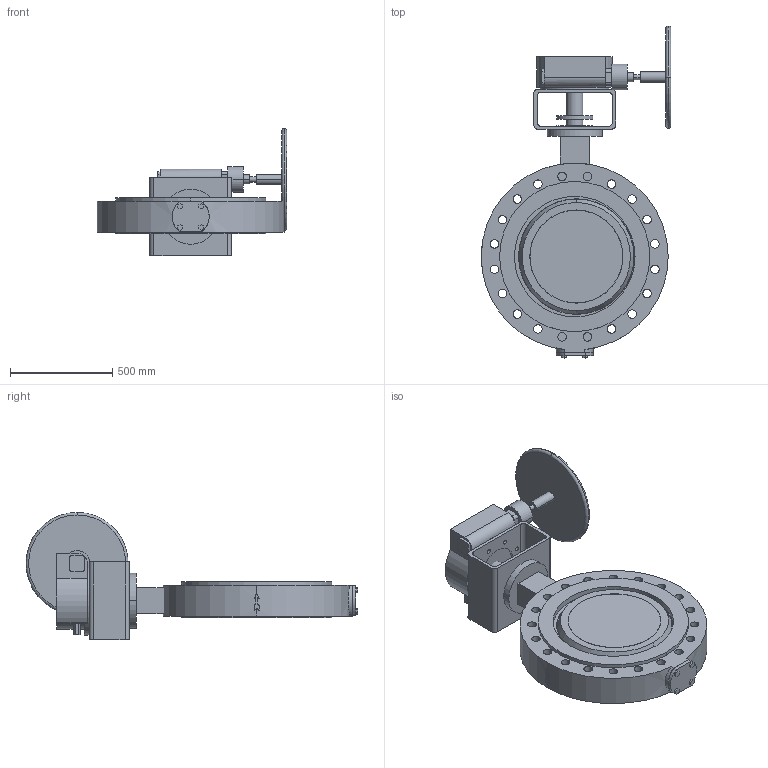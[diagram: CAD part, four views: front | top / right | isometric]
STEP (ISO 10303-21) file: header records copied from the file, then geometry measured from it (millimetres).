
FILE_DESCRIPTION( ( '' ), '1' );
FILE_NAME( 'F:/DE-SHS/TB/OR/04-Sonstiges/daten/Excel/mneugeba/018_ZETRIX-PN40_Getriebe-Rotork/c000006461.stp', '2016-09-19T06:45:29', ( '' ), ( '' ), ' ', ' ', ' ' );
FILE_SCHEMA( ( 'CONFIG_CONTROL_DESIGN' ) );
Length unit declared in the file: millimetre
Products named in the file (2): 1; 2
Bounding box: 927.5 x 1624 x 622.5 mm (x, y, z)
Volume: 121804595.9 mm3; surface area: 4727932.2 mm2
Topology: 2 solids, 2 shells, 317 faces, 822 edges, 548 vertices
Faces by surface type: cylinder 165, plane 140, cone 4, sphere 4, torus 4
Entity records: 10914 total; most frequent: CARTESIAN_POINT 2626, DIRECTION 1792, ORIENTED_EDGE 1644, EDGE_CURVE 822, AXIS2_PLACEMENT_3D 686, VERTEX_POINT 548, LINE 420, VECTOR 420
